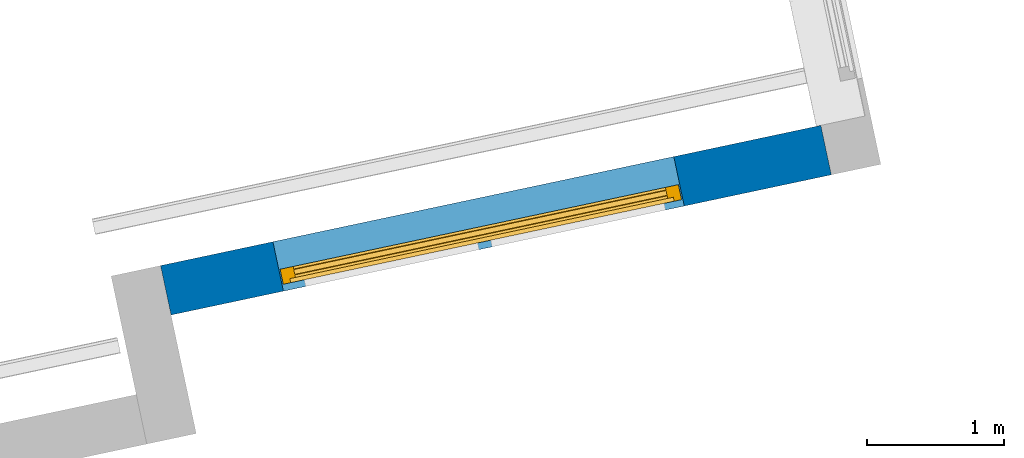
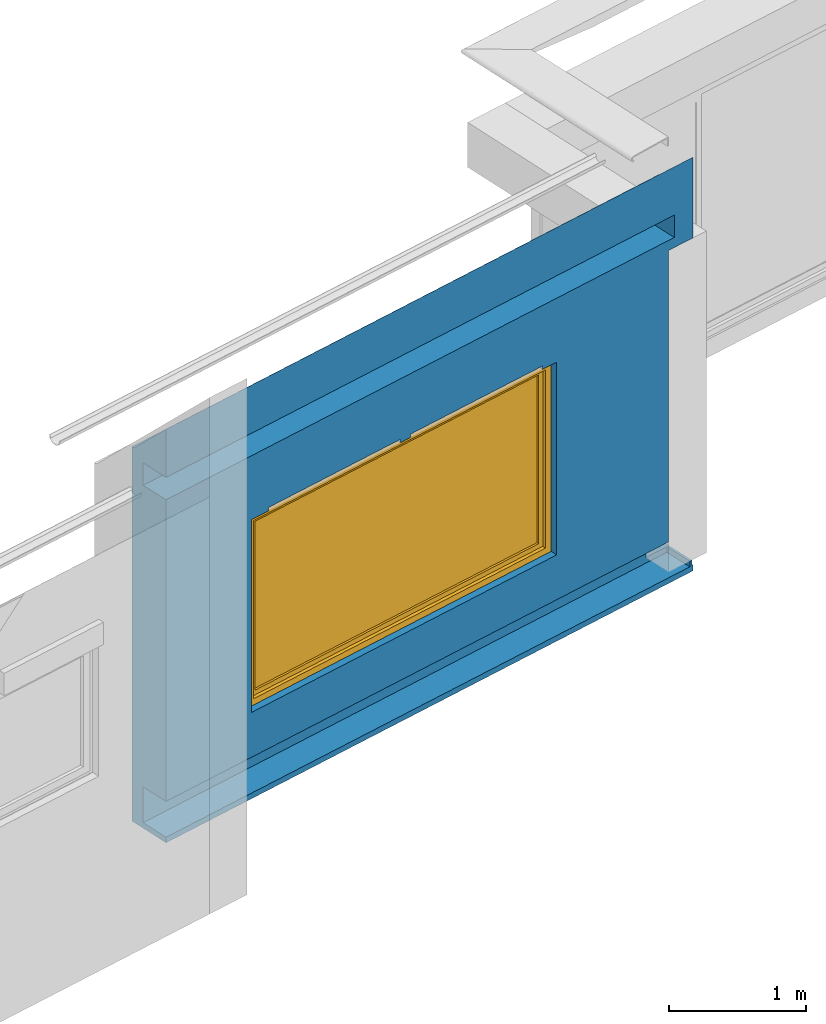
"""IFC2X3 building model written with IfcOpenShell, lengths in centimetres."""

import ifcopenshell
import ifcopenshell.guid

model = None  # the IFC model being written
_history = None  # IfcOwnerHistory: only IFC2X3 demands one
_inside = {}  # id of a spatial element -> (the spatial element, [elements in it])
_under = {}  # id of a project, library or spatial element -> (it, [spatial elements below it])
_declared = {}  # id of a project -> (the project, [libraries it declares])
_typed = {}  # id of a type object -> (the type object, [elements of that type])
_made_of = {}  # id of a material, layer set ... -> (it, [elements and type objects made of it])


def new_model(schema):
    """Start an empty IFC model of exactly this schema.

    Asked for "IFC4X3", IfcOpenShell would pick the latest addendum, in which some entities
    have other attributes; the version numbers below select the first issue.
    IFC2X3 requires an IfcOwnerHistory on every rooted entity: one is made here for all.
    """
    global model, _history
    if schema == "IFC4X3":
        model = ifcopenshell.file(schema_version=(4, 3, 0, 0))
    else:
        model = ifcopenshell.file(schema=schema)
    _inside.clear()
    _under.clear()
    _declared.clear()
    _typed.clear()
    _made_of.clear()
    _history = None
    if model.schema == "IFC2X3":
        org = make("IfcOrganization", Name="unknown")
        user = make(
            "IfcPersonAndOrganization",
            ThePerson=make("IfcPerson", FamilyName="unknown"),
            TheOrganization=org,
        )
        app = make(
            "IfcApplication",
            ApplicationDeveloper=org,
            Version="unknown",
            ApplicationFullName="unknown",
            ApplicationIdentifier="unknown",
        )
        _history = make(
            "IfcOwnerHistory",
            OwningUser=user,
            OwningApplication=app,
            ChangeAction="ADDED",
            CreationDate=0,
        )
    return model


def make(cls, **values):
    """One entity of the class cls with the attributes given. An attribute that is None is left unset."""
    return model.create_entity(
        cls, **{name: value for name, value in values.items() if value is not None}
    )


def entity(cls, *values):
    """Any entity or typed value of the class cls, its attributes in the order of the schema. None: left unset."""
    e = model.create_entity(cls)
    for i, value in enumerate(values):
        if value is not None:
            e[i] = value
    return e


def rooted(cls, **values):
    """An entity with a GlobalId (a new one), such as an element, a storey or a relation."""
    return make(cls, GlobalId=ifcopenshell.guid.new(), OwnerHistory=_history, **values)


def si_unit(unit_type, name, prefix=None):
    """IfcSIUnit, for example si_unit("LENGTHUNIT", "METRE", prefix="MILLI")."""
    return make("IfcSIUnit", UnitType=unit_type, Prefix=prefix, Name=name)


def converted_unit(unit_type, name, factor, base, dimensions=None, offset=None):
    """IfcConversionBasedUnit, such as the inch: factor (a typed value) times the base unit."""
    return make(
        "IfcConversionBasedUnit"
        if offset is None
        else "IfcConversionBasedUnitWithOffset",
        ConversionOffset=offset,
        Dimensions=None
        if dimensions is None
        else entity("IfcDimensionalExponents", *dimensions),
        UnitType=unit_type,
        Name=name,
        ConversionFactor=make(
            "IfcMeasureWithUnit", ValueComponent=factor, UnitComponent=base
        ),
    )


def derived_unit(unit_type, elements):
    """IfcDerivedUnit: a product of units, each with its exponent."""
    return make(
        "IfcDerivedUnit",
        Elements=[
            make("IfcDerivedUnitElement", Unit=unit, Exponent=power)
            for unit, power in elements
        ],
        UnitType=unit_type,
    )


def assignment(units):
    """IfcUnitAssignment: the units of a project."""
    return None if units is None else make("IfcUnitAssignment", Units=units)


def point(xyz):
    """IfcCartesianPoint."""
    return None if xyz is None else make("IfcCartesianPoint", Coordinates=xyz)


def direction(xyz):
    """IfcDirection."""
    return None if xyz is None else make("IfcDirection", DirectionRatios=xyz)


def frame(location, z_axis=None, x_axis=None):
    """IfcAxis2Placement3D, a coordinate frame: its origin and axes. An axis left out is left unset."""
    return make(
        "IfcAxis2Placement3D",
        Location=point(location),
        Axis=direction(z_axis),
        RefDirection=direction(x_axis),
    )


def frame_2d(location, x_axis=None):
    """IfcAxis2Placement2D, a coordinate frame in the plane: its origin and x axis."""
    return make(
        "IfcAxis2Placement2D", Location=point(location), RefDirection=direction(x_axis)
    )


def origin():
    """The frame at (0, 0, 0) with its axes left unset."""
    return frame((0.0, 0.0, 0.0))


def origin_2d_with_axis():
    """The frame at (0, 0) in the plane with the x axis (1, 0) written out."""
    return frame_2d((0.0, 0.0), x_axis=(1.0, 0.0))


def place(relative_to, where):
    """IfcLocalPlacement: puts the frame where relative to a parent placement (None: the world)."""
    return make(
        "IfcLocalPlacement", PlacementRelTo=relative_to, RelativePlacement=where
    )


def context(
    kind, dimensions, precision=None, world=None, true_north=None, identifier=None
):
    """IfcGeometricRepresentationContext, for example the 3D "Model" context."""
    return make(
        "IfcGeometricRepresentationContext",
        ContextIdentifier=identifier,
        ContextType=kind,
        CoordinateSpaceDimension=dimensions,
        Precision=precision,
        WorldCoordinateSystem=world,
        TrueNorth=true_north,
    )


def subcontext(parent, identifier, kind, view, scale=None):
    """IfcGeometricRepresentationSubContext, for example "Body" below "Model"."""
    return make(
        "IfcGeometricRepresentationSubContext",
        ContextIdentifier=identifier,
        ContextType=kind,
        ParentContext=parent,
        TargetScale=scale,
        TargetView=view,
    )


def project(units=None, contexts=None):
    """IfcProject with its units and contexts."""
    return rooted(
        "IfcProject",
        Name="project",
        RepresentationContexts=contexts,
        UnitsInContext=assignment(units),
    )


def spatial(cls, under=None, at=None, **own):
    """A site, building, storey or space (cls), placed at a placement, below another one or the project."""
    s = rooted(cls, ObjectPlacement=at, **own)
    if under is not None:
        _under.setdefault(under.id(), (under, []))[1].append(s)
    return s


def polyline(points):
    """IfcPolyline through the points."""
    return make("IfcPolyline", Points=[point(p) for p in points])


def profile(cls, at=None, kind="AREA", **sizes):
    """A parametric profile (cls). Its sizes go by their IFC names, for example OverallWidth=200.0."""
    return make(cls, ProfileType=kind, Position=at, **sizes)


def rectangle(**sizes):
    """IfcRectangleProfileDef."""
    return profile("IfcRectangleProfileDef", **sizes)


def outline(outer, holes=None, kind="AREA"):
    """IfcArbitraryClosedProfileDef: a profile drawn as a closed curve; with holes, ...WithVoids."""
    if holes is None:
        return make("IfcArbitraryClosedProfileDef", ProfileType=kind, OuterCurve=outer)
    return make(
        "IfcArbitraryProfileDefWithVoids",
        ProfileType=kind,
        OuterCurve=outer,
        InnerCurves=holes,
    )


def extrude(swept, where, along, depth):
    """IfcExtrudedAreaSolid: the profile swept, set in the frame where, extruded along a direction by depth."""
    return make(
        "IfcExtrudedAreaSolid",
        SweptArea=swept,
        Position=where,
        ExtrudedDirection=direction(along),
        Depth=depth,
    )


def faces_of(points, faces, orient=None, outer=None):
    """IfcFace entities. A face is a list of loops; a loop is a list of indices into points, from 0.

    orient and outer hold one flag for each loop. By default every Orientation is true, the
    first loop of a face is its IfcFaceOuterBound and the others are IfcFaceBound.
    """
    made = []
    for i, loops in enumerate(faces):
        bounds = []
        for j, loop in enumerate(loops):
            is_outer = j == 0 if outer is None else outer[i][j]
            bounds.append(
                make(
                    "IfcFaceOuterBound" if is_outer else "IfcFaceBound",
                    Bound=make("IfcPolyLoop", Polygon=[points[k] for k in loop]),
                    Orientation=True if orient is None else orient[i][j],
                )
            )
        made.append(make("IfcFace", Bounds=bounds))
    return made


def faceted_brep(points, faces, orient=None, outer=None, voids=None):
    """IfcFacetedBrep: a solid bounded by flat faces; with voids (closed shells), ...WithVoids."""
    shared = [point(p) for p in points]
    hull = make("IfcClosedShell", CfsFaces=faces_of(shared, faces, orient, outer))
    if voids is None:
        return make("IfcFacetedBrep", Outer=hull)
    return make(
        "IfcFacetedBrepWithVoids",
        Outer=hull,
        Voids=[
            make(cls, CfsFaces=faces_of(shared, fs, o, b)) for cls, fs, o, b in voids
        ],
    )


def shape(context_of_items, identifier, shape_type, items):
    """IfcShapeRepresentation: the items that make up one representation, for example the "Body"."""
    return make(
        "IfcShapeRepresentation",
        ContextOfItems=context_of_items,
        RepresentationIdentifier=identifier,
        RepresentationType=shape_type,
        Items=items,
    )


def source(mapping_origin, context_of_items, identifier, shape_type, items):
    """IfcRepresentationMap: a shape defined once, which mapped items show again and again."""
    return make(
        "IfcRepresentationMap",
        MappingOrigin=mapping_origin,
        MappedRepresentation=shape(context_of_items, identifier, shape_type, items),
    )


def transform(
    local_origin,
    x_axis=None,
    y_axis=None,
    z_axis=None,
    scale=None,
    scale2=None,
    scale3=None,
    uniform=True,
):
    """IfcCartesianTransformationOperator3D, or its non-uniform kind. x_axis, y_axis, z_axis: its Axis1, 2, 3."""
    if uniform:
        return make(
            "IfcCartesianTransformationOperator3D",
            Axis1=direction(x_axis),
            Axis2=direction(y_axis),
            LocalOrigin=point(local_origin),
            Scale=scale,
            Axis3=direction(z_axis),
        )
    return make(
        "IfcCartesianTransformationOperator3DnonUniform",
        Axis1=direction(x_axis),
        Axis2=direction(y_axis),
        LocalOrigin=point(local_origin),
        Scale=scale,
        Axis3=direction(z_axis),
        Scale2=scale2,
        Scale3=scale3,
    )


def mapped(mapping_source, mapping_target):
    """IfcMappedItem: shows the shape of a source again, moved by a transform."""
    return make(
        "IfcMappedItem", MappingSource=mapping_source, MappingTarget=mapping_target
    )


def material(Name=None, Category=None):
    """IfcMaterial."""
    return make("IfcMaterial", Name=Name, Category=Category)


def material_list(materials):
    """IfcMaterialList."""
    return make("IfcMaterialList", Materials=materials)


def layer(
    of_material, thickness, ventilated=None, Name=None, Category=None, Priority=None
):
    """IfcMaterialLayer: one layer of a wall or slab, of a material (None: an air gap)."""
    return make(
        "IfcMaterialLayer",
        Material=of_material,
        LayerThickness=thickness,
        IsVentilated=ventilated,
        Name=Name,
        Category=Category,
        Priority=Priority,
    )


def layer_set(layers, Name=None):
    """IfcMaterialLayerSet."""
    return make("IfcMaterialLayerSet", MaterialLayers=layers, LayerSetName=Name)


def made_of(thing, what):
    """Note that an element or type object is made of a material, layer set ...; save() writes the relation."""
    if what is not None:
        _made_of.setdefault(what.id(), (what, []))[1].append(thing)
    return thing


def type_object(cls, material=None, **own):
    """A type object (cls), such as IfcWallType, which elements share."""
    return made_of(rooted(cls, **own), material)


def type_shapes(of_type, sources):
    """Give a type object the sources (RepresentationMaps) that its elements show as mapped items."""
    of_type.RepresentationMaps = sources


def element(
    cls,
    number,
    at=None,
    inside=None,
    cuts=None,
    type_object=None,
    material=None,
    context=None,
    identifier="Body",
    shape_type=None,
    held_by="IfcProductDefinitionShape",
    body=None,
    shapes=None,
    **own,
):
    """One element of the class cls, such as IfcWall. Its Tag is "e" and its number.

    at: its placement. inside: the storey or other place that contains it. cuts: it is an
    opening in that element (IfcRelVoidsElement). A single representation is given by context,
    identifier, shape_type and body (its items); several are given by shapes. held_by: the class
    of the entity that holds the representations. save() writes the other relations.
    """
    e = rooted(cls, Tag="e%d" % number, ObjectPlacement=at, **own)
    if body is not None:
        shapes = [shape(context, identifier, shape_type, body)]
    if shapes is not None:
        e.Representation = make(held_by, Representations=shapes)
    if inside is not None:
        _inside.setdefault(inside.id(), (inside, []))[1].append(e)
    if cuts is not None:
        rooted(
            "IfcRelVoidsElement", RelatingBuildingElement=cuts, RelatedOpeningElement=e
        )
    if type_object is not None:
        _typed.setdefault(type_object.id(), (type_object, []))[1].append(e)
    return made_of(e, material)


def fill(opening, filler):
    """IfcRelFillsElement: the door or window that sits in an opening."""
    return rooted(
        "IfcRelFillsElement",
        RelatingOpeningElement=opening,
        RelatedBuildingElement=filler,
    )


def aggregate(whole, parts):
    """IfcRelAggregates: a whole, such as a stair, and the parts it consists of."""
    return rooted("IfcRelAggregates", RelatingObject=whole, RelatedObjects=parts)


def save(model, path):
    """Write the relations noted so far, then the file.

    IfcRelAggregates (storeys below a building ...), IfcRelContainedInSpatialStructure (elements
    in a storey), IfcRelDefinesByType, IfcRelAssociatesMaterial and IfcRelDeclares: one each for
    every whole, place, type object, material and project.
    """
    for whole, parts in _under.values():
        aggregate(whole, parts)
    for where, things in _inside.values():
        rooted(
            "IfcRelContainedInSpatialStructure",
            RelatedElements=things,
            RelatingStructure=where,
        )
    for kind, things in _typed.values():
        rooted("IfcRelDefinesByType", RelatedObjects=things, RelatingType=kind)
    for what, things in _made_of.values():
        rooted("IfcRelAssociatesMaterial", RelatedObjects=things, RelatingMaterial=what)
    for by, libraries in _declared.values():
        rooted("IfcRelDeclares", RelatingContext=by, RelatedDefinitions=libraries)
    model.write(path)


model = new_model("IFC2X3")

# Units and contexts
model_context = context("Model", 3, precision=0.001, world=origin(), true_north=direction((6.12303176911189e-17, 1.0)))
body_context = subcontext(model_context, "Body", "Model", "MODEL_VIEW")
ifc_project = project(units=[si_unit("LENGTHUNIT", "METRE", prefix="CENTI"), si_unit("AREAUNIT", "SQUARE_METRE"), si_unit("VOLUMEUNIT", "CUBIC_METRE"), converted_unit("PLANEANGLEUNIT", "DEGREE", entity("IfcRatioMeasure", 0.0174532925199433), si_unit("PLANEANGLEUNIT", "RADIAN"), dimensions=[0, 0, 0, 0, 0, 0, 0]), si_unit("MASSUNIT", "GRAM", prefix="KILO"), derived_unit("MASSDENSITYUNIT", [(si_unit("MASSUNIT", "GRAM", prefix="KILO"), 1), (si_unit("LENGTHUNIT", "METRE"), -3)]), derived_unit("IONCONCENTRATIONUNIT", [(si_unit("MASSUNIT", "GRAM", prefix="KILO"), 1), (si_unit("LENGTHUNIT", "METRE"), -3)]), derived_unit("MOMENTOFINERTIAUNIT", [(si_unit("LENGTHUNIT", "METRE"), 4)]), si_unit("TIMEUNIT", "SECOND"), si_unit("FREQUENCYUNIT", "HERTZ"), si_unit("THERMODYNAMICTEMPERATUREUNIT", "DEGREE_CELSIUS"), derived_unit("THERMALTRANSMITTANCEUNIT", [(si_unit("MASSUNIT", "GRAM", prefix="KILO"), 1), (si_unit("THERMODYNAMICTEMPERATUREUNIT", "KELVIN"), -1), (si_unit("TIMEUNIT", "SECOND"), -3)]), derived_unit("THERMALCONDUCTANCEUNIT", [(si_unit("MASSUNIT", "GRAM", prefix="KILO"), 1), (si_unit("THERMODYNAMICTEMPERATUREUNIT", "KELVIN"), -1), (si_unit("TIMEUNIT", "SECOND"), -3), (si_unit("LENGTHUNIT", "METRE"), 1)]), derived_unit("VOLUMETRICFLOWRATEUNIT", [(si_unit("LENGTHUNIT", "METRE"), 3), (si_unit("TIMEUNIT", "SECOND"), -1)]), derived_unit("MASSFLOWRATEUNIT", [(si_unit("MASSUNIT", "GRAM", prefix="KILO"), 1), (si_unit("TIMEUNIT", "SECOND"), -1)]), derived_unit("ROTATIONALFREQUENCYUNIT", [(si_unit("TIMEUNIT", "SECOND"), -1)]), si_unit("ELECTRICCURRENTUNIT", "AMPERE"), si_unit("ELECTRICVOLTAGEUNIT", "VOLT"), si_unit("POWERUNIT", "WATT"), si_unit("FORCEUNIT", "NEWTON", prefix="KILO"), si_unit("ILLUMINANCEUNIT", "LUX"), si_unit("LUMINOUSFLUXUNIT", "LUMEN"), si_unit("LUMINOUSINTENSITYUNIT", "CANDELA"), derived_unit("USERDEFINED", [(si_unit("MASSUNIT", "GRAM", prefix="KILO"), -1), (si_unit("LENGTHUNIT", "METRE"), -2), (si_unit("TIMEUNIT", "SECOND"), 3), (si_unit("LUMINOUSFLUXUNIT", "LUMEN"), 1)]), derived_unit("USERDEFINED", [(si_unit("MASSUNIT", "GRAM", prefix="KILO"), 1), (si_unit("TIMEUNIT", "SECOND"), -3), (si_unit("LENGTHUNIT", "METRE"), 3), (si_unit("ELECTRICCURRENTUNIT", "AMPERE"), -2)]), derived_unit("SOUNDPOWERUNIT", [(si_unit("MASSUNIT", "GRAM", prefix="KILO"), 1), (si_unit("TIMEUNIT", "SECOND"), -3), (si_unit("LENGTHUNIT", "METRE"), 2)]), derived_unit("SOUNDPRESSUREUNIT", [(si_unit("MASSUNIT", "GRAM", prefix="KILO"), 1), (si_unit("LENGTHUNIT", "METRE"), -1), (si_unit("TIMEUNIT", "SECOND"), -2)]), derived_unit("LINEARVELOCITYUNIT", [(si_unit("LENGTHUNIT", "METRE"), 1), (si_unit("TIMEUNIT", "SECOND"), -1)]), si_unit("PRESSUREUNIT", "PASCAL"), derived_unit("USERDEFINED", [(si_unit("MASSUNIT", "GRAM", prefix="KILO"), 1), (si_unit("LENGTHUNIT", "METRE"), -2), (si_unit("TIMEUNIT", "SECOND"), -2)]), derived_unit("LINEARFORCEUNIT", [(si_unit("MASSUNIT", "GRAM", prefix="KILO"), 1), (si_unit("TIMEUNIT", "SECOND"), -2)]), derived_unit("PLANARFORCEUNIT", [(si_unit("MASSUNIT", "GRAM", prefix="KILO"), 1), (si_unit("LENGTHUNIT", "METRE"), -1), (si_unit("TIMEUNIT", "SECOND"), -2)]), derived_unit("SPECIFICHEATCAPACITYUNIT", [(si_unit("THERMODYNAMICTEMPERATUREUNIT", "KELVIN"), -1), (si_unit("LENGTHUNIT", "METRE"), 2), (si_unit("TIMEUNIT", "SECOND"), -2)]), derived_unit("HEATINGVALUEUNIT", [(si_unit("LENGTHUNIT", "METRE"), 2), (si_unit("TIMEUNIT", "SECOND"), -2)]), derived_unit("VAPORPERMEABILITYUNIT", [(si_unit("LENGTHUNIT", "METRE"), -1), (si_unit("TIMEUNIT", "SECOND"), 1)]), derived_unit("DYNAMICVISCOSITYUNIT", [(si_unit("MASSUNIT", "GRAM", prefix="KILO"), 1), (si_unit("TIMEUNIT", "SECOND"), -1), (si_unit("LENGTHUNIT", "METRE"), -1)]), derived_unit("THERMALEXPANSIONCOEFFICIENTUNIT", [(si_unit("THERMODYNAMICTEMPERATUREUNIT", "KELVIN"), -1)]), derived_unit("MODULUSOFELASTICITYUNIT", [(si_unit("MASSUNIT", "GRAM", prefix="KILO"), 1), (si_unit("LENGTHUNIT", "METRE"), -1), (si_unit("TIMEUNIT", "SECOND"), -2)]), derived_unit("ISOTHERMALMOISTURECAPACITYUNIT", [(si_unit("LENGTHUNIT", "METRE"), 3), (si_unit("MASSUNIT", "GRAM", prefix="KILO"), -1)]), derived_unit("MOISTUREDIFFUSIVITYUNIT", [(si_unit("TIMEUNIT", "SECOND"), -1), (si_unit("LENGTHUNIT", "METRE"), 2)])], contexts=[model_context])

# Site, building, storey
site_placement = place(None, frame((14083.8920177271, -6853.25409548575, 6900.0), z_axis=(0.0, 0.0, 1.0), x_axis=(0.978188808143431, 0.207717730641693, 0.0)))
site = spatial("IfcSite", under=ifc_project, at=site_placement, Name="Surface", CompositionType="ELEMENT")
building_placement = place(site_placement, origin())
building = spatial("IfcBuilding", under=site, at=building_placement, CompositionType="ELEMENT")
storey_1_placement = place(building_placement, frame((0.0, 0.0, -17.0)))
storey_1 = spatial("IfcBuildingStorey", under=building, at=storey_1_placement, Name="Rez de chaussée (SD)", CompositionType="ELEMENT", Elevation=-16.9999999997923)

# Wall, opening
ifc_material_1 = material(Name="__ ENDUIT_Blanc")
ifc_layer_1 = layer(ifc_material_1, 2.0)
ifc_material_2 = material(Name="__ BETON_parpaings")
ifc_layer_2 = layer(ifc_material_2, 20.0)
ifc_material_3 = material(Name="__ ISOLANT (pat 1)")
ifc_layer_3 = layer(ifc_material_3, 13.0)
ifc_layer_4 = layer(ifc_material_1, 2.0)
ifc_layer_set = layer_set([ifc_layer_1, ifc_layer_2, ifc_layer_3, ifc_layer_4], Name="Mur de base:*BRIQUE 37 (20 +INT 13+2 + EXT 2) (Iso+BA13)(enduit)")
wall_type = type_object("IfcWallType", Name="Mur de base:*BRIQUE 37 (20 +INT 13+2 + EXT 2) (Iso+BA13)(enduit)", PredefinedType="STANDARD", material=ifc_layer_set)
wall_placement = place(storey_1_placement, frame((-6770.9551432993, 15521.1324526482, -20.0)))
wall = element("IfcWall", 1, at=wall_placement, inside=storey_1, type_object=wall_type, Name="Mur de base:*BRIQUE 37 (20 +INT 13+2 + EXT 2) (Iso+BA13)(enduit)", ObjectType="Mur de base:*BRIQUE 37 (20 +INT 13+2 + EXT 2) (Iso+BA13)(enduit)", context=body_context, shape_type="Brep", body=[
    faceted_brep([(0.0, -18.500000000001, 0.0), (518.14192420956, -18.500000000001, 0.0), (518.14192420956, -18.500000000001, 5.0), (516.941924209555, -18.500000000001, 5.0), (516.941924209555, -18.500000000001, 10.0), (514.941924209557, -18.500000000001, 10.0), (514.941924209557, -18.500000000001, 5.0), (0.0, -18.500000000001, 5.0), (518.14192420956, 18.4999999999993, 0.0), (0.0, 18.4999999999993, 0.0), (0.0, 18.4999999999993, 334.325901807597), (518.14192420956, 18.4999999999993, 334.325901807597), (518.14192420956, 18.4999999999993, 297.0), (494.141924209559, 18.4999999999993, 297.0), (494.141924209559, 18.4999999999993, 10.0), (516.941924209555, 18.4999999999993, 10.0), (516.941924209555, 18.4999999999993, 5.0), (518.14192420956, 18.4999999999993, 5.0), (84.070962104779, 18.500000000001, 249.0), (84.070962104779, 18.500000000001, 77.0), (384.070962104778, 18.4999999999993, 77.0), (384.070962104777, 18.4999999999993, 249.0), (0.0, 6.50000000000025, 5.0), (0.0, 6.50000000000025, 37.0), (0.0, -18.500000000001, 37.0), (0.0, -18.500000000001, 306.0), (0.0, 6.49999999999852, 306.0), (0.0, 6.49999999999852, 326.0), (0.0, -18.500000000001, 326.0), (0.0, -18.500000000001, 369.0), (0.0, 16.174098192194, 334.325901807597), (84.0709621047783, -18.4999999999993, 77.0), (84.0709621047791, -18.4999999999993, 249.0), (384.070962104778, -18.500000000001, 249.0), (370.141924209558, -18.500000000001, 249.0), (370.141924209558, -13.5000000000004, 249.0), (240.141924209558, -13.5000000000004, 249.0), (240.141924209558, -18.500000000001, 249.0), (230.621924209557, -18.500000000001, 249.0), (230.621924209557, -13.4999999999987, 249.0), (100.621924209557, -13.4999999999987, 249.0), (100.621924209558, -18.4999999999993, 249.0), (384.070962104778, -18.500000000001, 77.0), (240.141924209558, -13.4999999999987, 252.0), (240.141924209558, -18.500000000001, 252.0), (370.141924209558, -13.5000000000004, 252.0), (370.141924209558, -18.500000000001, 252.0), (518.14192420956, -18.500000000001, 369.0), (518.14192420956, 16.1740981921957, 334.325901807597), (499.641924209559, 6.50000000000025, 306.0), (499.641924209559, 6.50000000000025, 326.0), (499.641924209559, -18.500000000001, 326.0), (499.641924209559, -18.500000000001, 306.0), (100.621924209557, -13.4999999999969, 252.0), (100.621924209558, -18.4999999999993, 252.0), (230.621924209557, -13.4999999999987, 252.0), (230.621924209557, -18.500000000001, 252.0), (494.141924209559, -18.500000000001, 297.0), (494.141924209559, -18.500000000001, 37.0), (494.141924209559, 6.50000000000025, 37.0), (494.141924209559, 6.50000000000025, 10.0), (514.941924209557, 6.50000000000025, 10.0), (518.14192420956, -18.500000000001, 297.0), (514.941924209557, 6.50000000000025, 5.0)], [[[0, 1, 2, 3, 4, 5, 6, 7]], [[8, 9, 10, 11, 12, 13, 14, 15, 16, 17], [18, 19, 20, 21]], [[1, 0, 9, 8]], [[10, 9, 0, 7, 22, 23, 24, 25, 26, 27, 28, 29, 30]], [[31, 19, 18, 32]], [[32, 18, 21, 33, 34, 35, 36, 37, 38, 39, 40, 41]], [[33, 21, 20, 42]], [[19, 31, 42, 20]], [[43, 44, 37, 36]], [[45, 43, 36, 35]], [[44, 43, 45, 46]], [[46, 45, 35, 34]], [[29, 47, 48, 30]], [[49, 50, 27, 26]], [[27, 50, 51, 28]], [[49, 26, 25, 52]], [[53, 54, 41, 40]], [[55, 53, 40, 39]], [[54, 53, 55, 56]], [[56, 55, 39, 38]], [[13, 57, 58, 59, 60, 14]], [[5, 4, 15, 14, 60, 61]], [[57, 13, 12, 62]], [[50, 49, 52, 51]], [[48, 47, 62, 12, 11]], [[11, 10, 30, 48]], [[16, 3, 2, 17]], [[23, 59, 58, 24]], [[3, 16, 15, 4]], [[63, 6, 5, 61]], [[22, 63, 61, 60, 59, 23]], [[63, 22, 7, 6]], [[1, 8, 17, 2]], [[47, 29, 28, 51, 52, 25, 24, 58, 57, 62], [31, 32, 41, 54, 56, 38, 37, 44, 46, 34, 33, 42]]]),
])
opening_placement = place(wall_placement, frame((84.0709621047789, -18.500000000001, 77.0)))
opening = element("IfcOpeningElement", 2, at=opening_placement, cuts=wall, Name="OPTIMAL Top Turn Single Window-1:c 300x170 +VR:1", ObjectType="Opening", context=body_context, shape_type="SweptSolid", body=[
    extrude(rectangle(XDim=172.0, YDim=300.0, at=frame_2d((85.9999999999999, 150.0), x_axis=(1.0, 0.0))), frame((0.0, 0.0, 0.0), z_axis=(0.0, 1.0, 0.0), x_axis=(0.0, 0.0, 1.0)), (0.0, 0.0, 1.0), 37.0),
])

# Storey
storey_2_placement = place(building_placement, origin())
storey_2 = spatial("IfcBuildingStorey", under=building, at=storey_2_placement, Name="_Rez de chaussée Séjour", CompositionType="ELEMENT", Elevation=2.07727662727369e-10)

# Window
ifc_material_4 = material(Name="Fenêtre - Vitrage")
ifc_material_5 = material(Name="__ METAL_gris foncé (menuiseries acier)______________________TEST")
ifc_material_list = material_list([ifc_material_4, ifc_material_5])
window_style = type_object("IfcWindowStyle", Name="OPTIMAL Top Turn Single Window-1:c 300x170 +VR", ConstructionType="NOTDEFINED", OperationType="NOTDEFINED", ParameterTakesPrecedence=False, Sizeable=False, material=ifc_material_list)
shared_shape = source(origin(), body_context, "Body", "SweptSolid", [
    extrude(rectangle(XDim=0.399999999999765, YDim=278.6, at=origin_2d_with_axis()), frame((150.0, 10.1000000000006, 10.7000000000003), z_axis=(0.0, 0.0, 1.0), x_axis=(0.0, 1.0, 0.0)), (0.0, 0.0, 1.0), 150.6),
    extrude(rectangle(XDim=0.399999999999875, YDim=278.6, at=origin_2d_with_axis()), frame((150.0, 14.1000000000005, 10.7000000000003), z_axis=(0.0, 0.0, 1.0), x_axis=(0.0, 1.0, 0.0)), (0.0, 0.0, 1.0), 150.6),
    extrude(outline(polyline([(-79.5000000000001, -143.5), (79.5000000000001, -143.5), (79.5000000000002, 143.5), (-79.5000000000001, 143.5), (-79.5000000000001, -143.5)]), holes=[polyline([(75.3000000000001, -139.3), (-75.3000000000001, -139.3), (-75.3000000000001, 139.3), (75.3000000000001, 139.3), (75.3000000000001, -139.3)])]), frame((150.0, 8.0, 86.0), z_axis=(0.0, 1.0, 0.0), x_axis=(0.0, 0.0, 1.0)), (0.0, 0.0, 1.0), 8.20000000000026),
    extrude(outline(polyline([(-85.0, -149.0), (85.0, -149.0), (85.0, 149.0), (-85.0, 149.0), (-85.0, -149.0)]), holes=[polyline([(79.5000000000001, -143.5), (-79.5000000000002, -143.5), (-79.5000000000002, 143.5), (79.5000000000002, 143.5), (79.5000000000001, -143.5)])]), frame((150.0, 5.0, 86.0), z_axis=(0.0, 1.0, 0.0), x_axis=(0.0, 0.0, 1.0)), (0.0, 0.0, 1.0), 11.2000000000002),
])
type_shapes(window_style, [shared_shape])
window_placement = place(opening_placement, origin())
window = element("IfcWindow", 3, at=window_placement, inside=storey_2, type_object=window_style, material=ifc_material_list, Name="OPTIMAL Top Turn Single Window-1:c 300x170 +VR", ObjectType="OPTIMAL Top Turn Single Window-1:c 300x170 +VR", OverallHeight=172.0, OverallWidth=300.0, context=body_context, shape_type="MappedRepresentation", body=[
    mapped(shared_shape, transform((0.0, 0.0, 0.0), scale=1.0)),
])

fill(opening, window)

save(model, "model.ifc")
